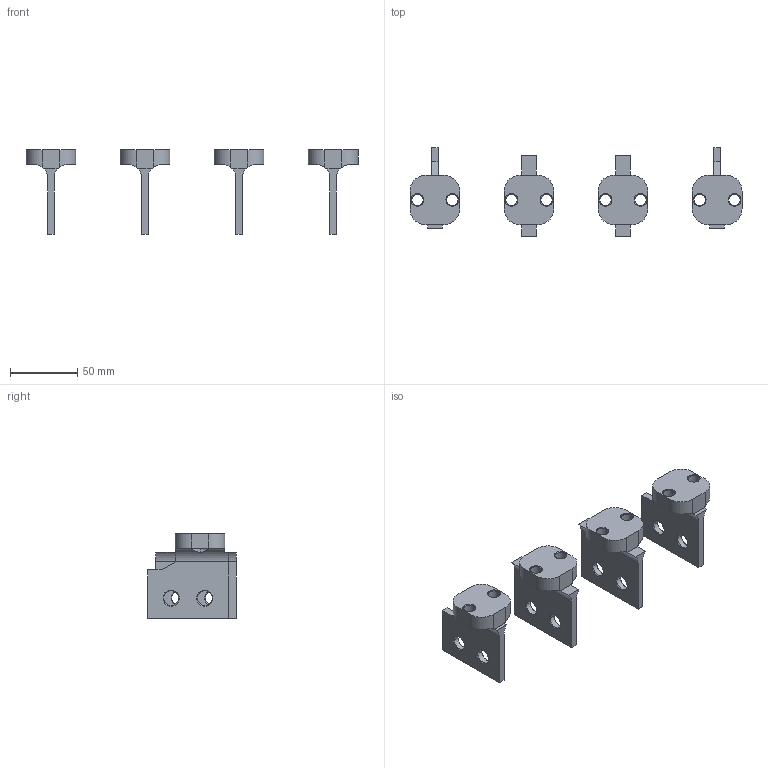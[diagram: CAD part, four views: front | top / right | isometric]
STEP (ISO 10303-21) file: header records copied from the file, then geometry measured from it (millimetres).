
FILE_DESCRIPTION (( 'STEP AP203' ), '1' );
FILE_NAME ('Âûâîäû âåðòèê. âåðõíèå äëÿ ñòàöèîíàðíîãî íà 630À 4P.STEP', '2024-06-25T08:36:12', ( '' ), ( '' ), 'SwSTEP 2.0', 'SolidWorks 2018', '' );
FILE_SCHEMA (( 'CONFIG_CONTROL_DESIGN' ));
Length unit declared in the file: millimetre
Products named in the file (1): Âûâîäû âåðòèê. âåðõíèå äëÿ  ñòàöèîíàðíîãî íà 630À 4P
Bounding box: 247 x 66 x 63 mm (x, y, z)
Volume: 111102.8 mm3; surface area: 42660.4 mm2
Topology: 4 solids, 4 shells, 190 faces, 478 edges, 296 vertices
Faces by surface type: cylinder 68, cone 64, plane 58
Entity records: 6297 total; most frequent: CARTESIAN_POINT 1505, DIRECTION 1032, ORIENTED_EDGE 956, EDGE_CURVE 478, AXIS2_PLACEMENT_3D 391, VERTEX_POINT 296, LINE 250, VECTOR 250
